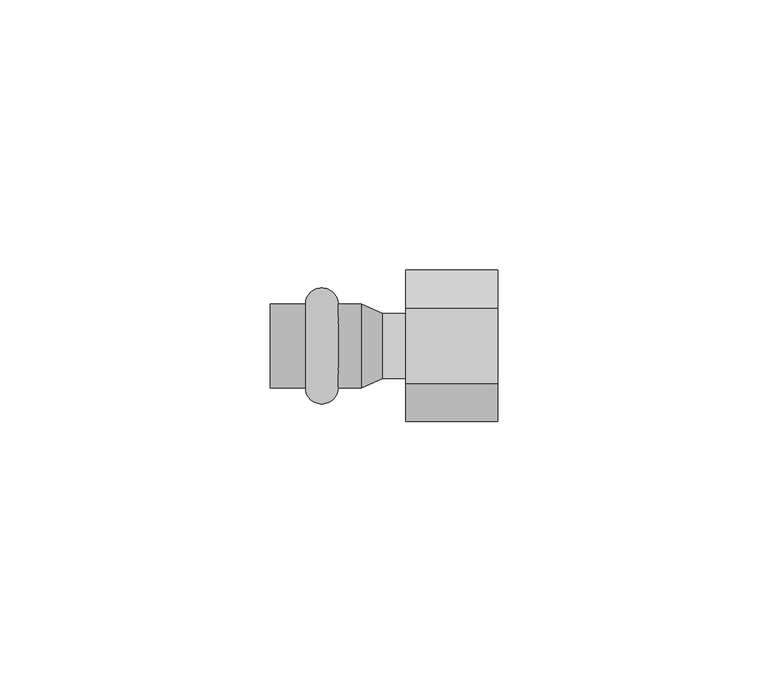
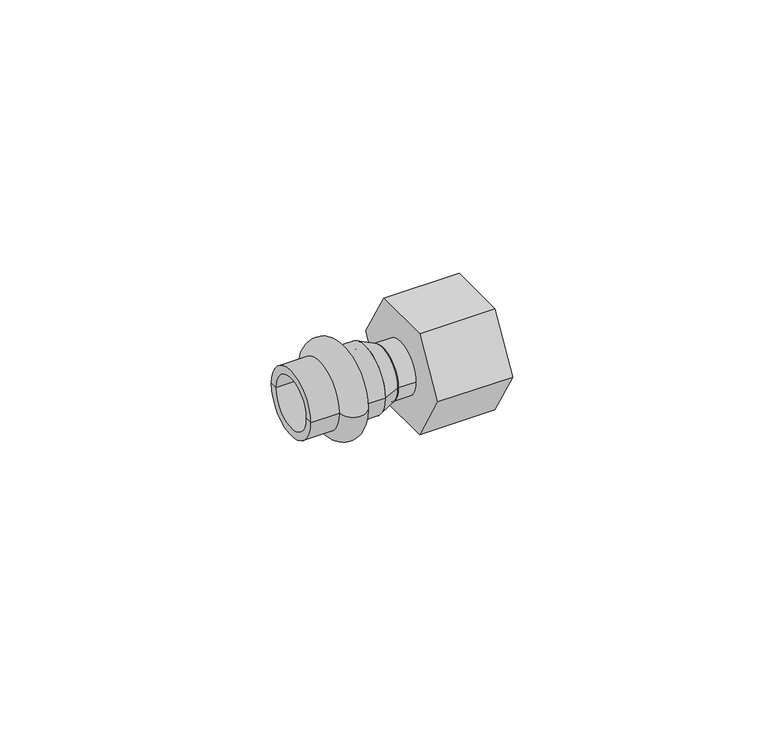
"""IFC4 building model written with IfcOpenShell, lengths in millimetres: pipe fitting geometry, VALTEC_VTi.908.I_Соединитель с накидной гайкой_Нержавеющая сталь : VTi.908.I."""

import ifcopenshell
import ifcopenshell.guid

model = None  # the IFC model being written
_history = None  # IfcOwnerHistory: only IFC2X3 demands one
_inside = {}  # id of a spatial element -> (the spatial element, [elements in it])
_under = {}  # id of a project, library or spatial element -> (it, [spatial elements below it])
_declared = {}  # id of a project -> (the project, [libraries it declares])
_typed = {}  # id of a type object -> (the type object, [elements of that type])
_made_of = {}  # id of a material, layer set ... -> (it, [elements and type objects made of it])


def new_model(schema):
    """Start an empty IFC model of exactly this schema.

    Asked for "IFC4X3", IfcOpenShell would pick the latest addendum, in which some entities
    have other attributes; the version numbers below select the first issue.
    IFC2X3 requires an IfcOwnerHistory on every rooted entity: one is made here for all.
    """
    global model, _history
    if schema == "IFC4X3":
        model = ifcopenshell.file(schema_version=(4, 3, 0, 0))
    else:
        model = ifcopenshell.file(schema=schema)
    _inside.clear()
    _under.clear()
    _declared.clear()
    _typed.clear()
    _made_of.clear()
    _history = None
    if model.schema == "IFC2X3":
        org = make("IfcOrganization", Name="unknown")
        user = make(
            "IfcPersonAndOrganization",
            ThePerson=make("IfcPerson", FamilyName="unknown"),
            TheOrganization=org,
        )
        app = make(
            "IfcApplication",
            ApplicationDeveloper=org,
            Version="unknown",
            ApplicationFullName="unknown",
            ApplicationIdentifier="unknown",
        )
        _history = make(
            "IfcOwnerHistory",
            OwningUser=user,
            OwningApplication=app,
            ChangeAction="ADDED",
            CreationDate=0,
        )
    return model


def make(cls, **values):
    """One entity of the class cls with the attributes given. An attribute that is None is left unset."""
    return model.create_entity(
        cls, **{name: value for name, value in values.items() if value is not None}
    )


def rooted(cls, **values):
    """An entity with a GlobalId (a new one), such as an element, a storey or a relation."""
    return make(cls, GlobalId=ifcopenshell.guid.new(), OwnerHistory=_history, **values)


def si_unit(unit_type, name, prefix=None):
    """IfcSIUnit, for example si_unit("LENGTHUNIT", "METRE", prefix="MILLI")."""
    return make("IfcSIUnit", UnitType=unit_type, Prefix=prefix, Name=name)


def assignment(units):
    """IfcUnitAssignment: the units of a project."""
    return None if units is None else make("IfcUnitAssignment", Units=units)


def point(xyz):
    """IfcCartesianPoint."""
    return None if xyz is None else make("IfcCartesianPoint", Coordinates=xyz)


def direction(xyz):
    """IfcDirection."""
    return None if xyz is None else make("IfcDirection", DirectionRatios=xyz)


def frame(location, z_axis=None, x_axis=None):
    """IfcAxis2Placement3D, a coordinate frame: its origin and axes. An axis left out is left unset."""
    return make(
        "IfcAxis2Placement3D",
        Location=point(location),
        Axis=direction(z_axis),
        RefDirection=direction(x_axis),
    )


def frame_2d(location, x_axis=None):
    """IfcAxis2Placement2D, a coordinate frame in the plane: its origin and x axis."""
    return make(
        "IfcAxis2Placement2D", Location=point(location), RefDirection=direction(x_axis)
    )


def origin():
    """The frame at (0, 0, 0) with its axes left unset."""
    return frame((0.0, 0.0, 0.0))


def origin_2d():
    """The frame at (0, 0) in the plane with its x axis left unset."""
    return frame_2d((0.0, 0.0))


def place(relative_to, where):
    """IfcLocalPlacement: puts the frame where relative to a parent placement (None: the world)."""
    return make(
        "IfcLocalPlacement", PlacementRelTo=relative_to, RelativePlacement=where
    )


def context(
    kind, dimensions, precision=None, world=None, true_north=None, identifier=None
):
    """IfcGeometricRepresentationContext, for example the 3D "Model" context."""
    return make(
        "IfcGeometricRepresentationContext",
        ContextIdentifier=identifier,
        ContextType=kind,
        CoordinateSpaceDimension=dimensions,
        Precision=precision,
        WorldCoordinateSystem=world,
        TrueNorth=true_north,
    )


def project(units=None, contexts=None):
    """IfcProject with its units and contexts."""
    return rooted(
        "IfcProject",
        Name="project",
        RepresentationContexts=contexts,
        UnitsInContext=assignment(units),
    )


def spatial(cls, under=None, at=None, **own):
    """A site, building, storey or space (cls), placed at a placement, below another one or the project."""
    s = rooted(cls, ObjectPlacement=at, **own)
    if under is not None:
        _under.setdefault(under.id(), (under, []))[1].append(s)
    return s


def polyline(points):
    """IfcPolyline through the points."""
    return make("IfcPolyline", Points=[point(p) for p in points])


def circle_curve(where, radius):
    """IfcCircle in the frame where."""
    return make("IfcCircle", Position=where, Radius=radius)


def ellipse_curve(where, semi_axis1, semi_axis2):
    """IfcEllipse in the frame where."""
    return make(
        "IfcEllipse", Position=where, SemiAxis1=semi_axis1, SemiAxis2=semi_axis2
    )


def trimmed(basis, trim1, trim2, sense, master):
    """IfcTrimmedCurve: the piece of a basis curve between two trims."""
    return make(
        "IfcTrimmedCurve",
        BasisCurve=basis,
        Trim1=trim1,
        Trim2=trim2,
        SenseAgreement=sense,
        MasterRepresentation=master,
    )


def segment(curve, same_sense, transition):
    """IfcCompositeCurveSegment."""
    return make(
        "IfcCompositeCurveSegment",
        Transition=transition,
        SameSense=same_sense,
        ParentCurve=curve,
    )


def composite_curve(segments, self_intersect=None):
    """IfcCompositeCurve: segments joined end to end."""
    return make("IfcCompositeCurve", Segments=segments, SelfIntersect=self_intersect)


def outline(outer, holes=None, kind="AREA"):
    """IfcArbitraryClosedProfileDef: a profile drawn as a closed curve; with holes, ...WithVoids."""
    if holes is None:
        return make("IfcArbitraryClosedProfileDef", ProfileType=kind, OuterCurve=outer)
    return make(
        "IfcArbitraryProfileDefWithVoids",
        ProfileType=kind,
        OuterCurve=outer,
        InnerCurves=holes,
    )


def extrude(swept, where, along, depth):
    """IfcExtrudedAreaSolid: the profile swept, set in the frame where, extruded along a direction by depth."""
    return make(
        "IfcExtrudedAreaSolid",
        SweptArea=swept,
        Position=where,
        ExtrudedDirection=direction(along),
        Depth=depth,
    )


def shape(context_of_items, identifier, shape_type, items):
    """IfcShapeRepresentation: the items that make up one representation, for example the "Body"."""
    return make(
        "IfcShapeRepresentation",
        ContextOfItems=context_of_items,
        RepresentationIdentifier=identifier,
        RepresentationType=shape_type,
        Items=items,
    )


def source(mapping_origin, context_of_items, identifier, shape_type, items):
    """IfcRepresentationMap: a shape defined once, which mapped items show again and again."""
    return make(
        "IfcRepresentationMap",
        MappingOrigin=mapping_origin,
        MappedRepresentation=shape(context_of_items, identifier, shape_type, items),
    )


def transform(
    local_origin,
    x_axis=None,
    y_axis=None,
    z_axis=None,
    scale=None,
    scale2=None,
    scale3=None,
    uniform=True,
):
    """IfcCartesianTransformationOperator3D, or its non-uniform kind. x_axis, y_axis, z_axis: its Axis1, 2, 3."""
    if uniform:
        return make(
            "IfcCartesianTransformationOperator3D",
            Axis1=direction(x_axis),
            Axis2=direction(y_axis),
            LocalOrigin=point(local_origin),
            Scale=scale,
            Axis3=direction(z_axis),
        )
    return make(
        "IfcCartesianTransformationOperator3DnonUniform",
        Axis1=direction(x_axis),
        Axis2=direction(y_axis),
        LocalOrigin=point(local_origin),
        Scale=scale,
        Axis3=direction(z_axis),
        Scale2=scale2,
        Scale3=scale3,
    )


def mapped(mapping_source, mapping_target):
    """IfcMappedItem: shows the shape of a source again, moved by a transform."""
    return make(
        "IfcMappedItem", MappingSource=mapping_source, MappingTarget=mapping_target
    )


def made_of(thing, what):
    """Note that an element or type object is made of a material, layer set ...; save() writes the relation."""
    if what is not None:
        _made_of.setdefault(what.id(), (what, []))[1].append(thing)
    return thing


def element(
    cls,
    number,
    at=None,
    inside=None,
    cuts=None,
    type_object=None,
    material=None,
    context=None,
    identifier="Body",
    shape_type=None,
    held_by="IfcProductDefinitionShape",
    body=None,
    shapes=None,
    **own,
):
    """One element of the class cls, such as IfcWall. Its Tag is "e" and its number.

    at: its placement. inside: the storey or other place that contains it. cuts: it is an
    opening in that element (IfcRelVoidsElement). A single representation is given by context,
    identifier, shape_type and body (its items); several are given by shapes. held_by: the class
    of the entity that holds the representations. save() writes the other relations.
    """
    e = rooted(cls, Tag="e%d" % number, ObjectPlacement=at, **own)
    if body is not None:
        shapes = [shape(context, identifier, shape_type, body)]
    if shapes is not None:
        e.Representation = make(held_by, Representations=shapes)
    if inside is not None:
        _inside.setdefault(inside.id(), (inside, []))[1].append(e)
    if cuts is not None:
        rooted(
            "IfcRelVoidsElement", RelatingBuildingElement=cuts, RelatedOpeningElement=e
        )
    if type_object is not None:
        _typed.setdefault(type_object.id(), (type_object, []))[1].append(e)
    return made_of(e, material)


def aggregate(whole, parts):
    """IfcRelAggregates: a whole, such as a stair, and the parts it consists of."""
    return rooted("IfcRelAggregates", RelatingObject=whole, RelatedObjects=parts)


def save(model, path):
    """Write the relations noted so far, then the file.

    IfcRelAggregates (storeys below a building ...), IfcRelContainedInSpatialStructure (elements
    in a storey), IfcRelDefinesByType, IfcRelAssociatesMaterial and IfcRelDeclares: one each for
    every whole, place, type object, material and project.
    """
    for whole, parts in _under.values():
        aggregate(whole, parts)
    for where, things in _inside.values():
        rooted(
            "IfcRelContainedInSpatialStructure",
            RelatedElements=things,
            RelatingStructure=where,
        )
    for kind, things in _typed.values():
        rooted("IfcRelDefinesByType", RelatedObjects=things, RelatingType=kind)
    for what, things in _made_of.values():
        rooted("IfcRelAssociatesMaterial", RelatedObjects=things, RelatingMaterial=what)
    for by, libraries in _declared.values():
        rooted("IfcRelDeclares", RelatingContext=by, RelatedDefinitions=libraries)
    model.write(path)


def plane_surface(at):
    """IfcPlane: the flat surface through the origin of the frame at, square to its z axis."""
    return make("IfcPlane", Position=at)


def cylinder_surface(at, radius):
    """IfcCylindricalSurface: all points at the distance radius from the z axis of the frame at."""
    return make("IfcCylindricalSurface", Position=at, Radius=radius)


def revolved_surface(curve, axis_point, axis_direction):
    """IfcSurfaceOfRevolution: the curve turned about the line through axis_point along axis_direction."""
    return make(
        "IfcSurfaceOfRevolution",
        SweptCurve=make("IfcArbitraryOpenProfileDef", ProfileType="CURVE", Curve=curve),
        AxisPosition=make("IfcAxis1Placement", Location=point(axis_point), Axis=direction(axis_direction)),
    )


def advanced_brep(points, edges, surfaces, faces):
    """IfcAdvancedBrep: a solid bounded by faces that lie on surfaces and meet in shared edges.

    An edge is (start, end): straight between two places in points (the first is 0);
    or (start, end, curve); or (start, end, curve, False) where it runs against its curve.
    A face is (place in surfaces, loops), or (place, loops, False) where it looks against
    its surface's normal. A loop lists edges by number (the first is 1), with a minus sign
    where the edge is run from its end to its start. The first loop is the outer one.
    """
    corners = [point(p) for p in points]
    vertices = [make("IfcVertexPoint", VertexGeometry=c) for c in corners]
    made = []
    for start, end, *more in edges:
        made.append(
            make(
                "IfcEdgeCurve",
                EdgeStart=vertices[start],
                EdgeEnd=vertices[end],
                EdgeGeometry=more[0] if more else make("IfcPolyline", Points=[corners[start], corners[end]]),
                SameSense=more[1] if len(more) > 1 else True,
            )
        )
    hull = []
    for where, loops, *sense in faces:
        bounds = []
        for j, loop in enumerate(loops):
            ring = [make("IfcOrientedEdge", EdgeElement=made[abs(k) - 1], Orientation=k > 0) for k in loop]
            bounds.append(
                make(
                    "IfcFaceOuterBound" if j == 0 else "IfcFaceBound",
                    Bound=make("IfcEdgeLoop", EdgeList=ring),
                    Orientation=True,
                )
            )
        hull.append(make("IfcAdvancedFace", Bounds=bounds, FaceSurface=surfaces[where], SameSense=sense[0] if sense else True))
    return make("IfcAdvancedBrep", Outer=make("IfcClosedShell", CfsFaces=hull))


def pipe_fitting_cb15b52e(model_context):
    return source(origin(), model_context, "Body", "SolidModel", [
        advanced_brep(
        [(-27.0, -7.75, 0.0), (-27.0, 7.75, 0.0), (-21.0, 7.75, 0.0), (-21.0, -7.75, 0.0), (-33.5, -7.75, 0.0), (-33.5, 7.75, 0.0), (-33.5, -6.0, 0.0), (-33.5, 6.0, 0.0), (-16.7, -6.0, 0.0), (-16.7, 6.0, 0.0), (-16.7, -7.75, 0.0), (-16.7, 7.75, 0.0)],
        [
            (0, 1, circle_curve(frame((-27.0, 0.0, 0.0), z_axis=(1.0, 0.0, 0.0), x_axis=(0.0, 1.0, 0.0)), 7.75)),
            (1, 2, circle_curve(frame((-24.0, 7.75, 0.0), z_axis=(0.0, 0.0, -1.0), x_axis=(1.0, 0.0, 0.0)), 3.0)),
            (2, 3, circle_curve(frame((-21.0, 0.0, 0.0), z_axis=(-1.0, 0.0, 0.0), x_axis=(0.0, 1.0, 0.0)), 7.75)),
            (3, 0, circle_curve(frame((-24.0, -7.75, 0.0), z_axis=(0.0, 0.0, -1.0), x_axis=(1.0, 0.0, 0.0)), 3.0)),
            (1, 0, circle_curve(frame((-27.0, 0.0, 0.0), z_axis=(1.0, 0.0, 0.0), x_axis=(0.0, 1.0, 0.0)), 7.75)),
            (3, 2, circle_curve(frame((-21.0, 0.0, 0.0), z_axis=(-1.0, 0.0, 0.0), x_axis=(0.0, 1.0, 0.0)), 7.75)),
            (4, 5, circle_curve(frame((-33.5, 0.0, 0.0), z_axis=(1.0, 0.0, 0.0), x_axis=(0.0, 1.0, 0.0)), 7.75)),
            (5, 1),
            (0, 4),
            (5, 4, circle_curve(frame((-33.5, 0.0, 0.0), z_axis=(1.0, 0.0, 0.0), x_axis=(0.0, 1.0, 0.0)), 7.75)),
            (6, 7, circle_curve(frame((-33.5, 0.0, 0.0), z_axis=(1.0, 0.0, 0.0), x_axis=(0.0, 1.0, 0.0)), 6.0)),
            (7, 5),
            (4, 6),
            (7, 6, circle_curve(frame((-33.5, 0.0, 0.0), z_axis=(1.0, 0.0, 0.0), x_axis=(0.0, 1.0, 0.0)), 6.0)),
            (8, 9, circle_curve(frame((-16.7, 0.0, 0.0), z_axis=(1.0, 0.0, 0.0), x_axis=(0.0, 1.0, 0.0)), 6.0)),
            (9, 7),
            (6, 8),
            (9, 8, circle_curve(frame((-16.7, 0.0, 0.0), z_axis=(1.0, 0.0, 0.0), x_axis=(0.0, 1.0, 0.0)), 6.0)),
            (10, 11, circle_curve(frame((-16.7, 0.0, 0.0), z_axis=(1.0, 0.0, 0.0), x_axis=(0.0, 1.0, 0.0)), 7.75)),
            (11, 9),
            (8, 10),
            (11, 10, circle_curve(frame((-16.7, 0.0, 0.0), z_axis=(1.0, 0.0, 0.0), x_axis=(0.0, 1.0, 0.0)), 7.75)),
            (2, 11),
            (10, 3),
        ],
        [
            revolved_surface(trimmed(ellipse_curve(frame((-24.0, 7.75, 0.0), z_axis=(0.0, 0.0, 1.0), x_axis=(1.0, 0.0, 0.0)), 3.0, 3.0), [point((-21.0, 7.75, 0.0))], [point((-27.0, 7.75, 0.0))], True, "CARTESIAN"), (-37.0364426, 0.0, 0.0), (-1.0, 0.0, 0.0)),
            cylinder_surface(frame((-37.0364426, 0.0, 0.0), z_axis=(-1.0, 0.0, 0.0), x_axis=(0.0, 1.0, 0.0)), 7.75),
            plane_surface(frame((-33.5, 0.0, 0.0), z_axis=(-1.0, 0.0, 0.0), x_axis=(0.0, 1.0, 0.0))),
            revolved_surface(polyline([(-33.5, 6.0, 0.0), (-16.7, 6.0, 0.0)]), (-37.0364426, 0.0, 0.0), (-1.0, 0.0, 0.0)),
            plane_surface(frame((-16.7, 0.0, 0.0), z_axis=(1.0, 0.0, 0.0), x_axis=(0.0, 1.0, 0.0))),
        ],
        [
            (0, [[1, 2, 3, 4]]),
            (0, [[5, -4, 6, -2]]),
            (1, [[7, 8, -1, 9]]),
            (1, [[10, -9, -5, -8]]),
            (2, [[11, 12, -7, 13]]),
            (2, [[14, -13, -10, -12]]),
            (3, [[15, 16, -11, 17]]),
            (3, [[18, -17, -14, -16]]),
            (4, [[19, 20, -15, 21]]),
            (4, [[22, -21, -18, -20]]),
            (1, [[-3, 23, -19, 24]]),
            (1, [[-6, -24, -22, -23]]),
        ],
    ),
        extrude(outline(polyline([(-13.989197, 0.0), (-6.9945985, 12.115), (6.9945985, 12.115), (13.989197, 0.0), (6.9945985, -12.115), (-6.9945985, -12.115), (-13.989197, 0.0)])), frame((-8.5, 0.0, 0.0), z_axis=(1.0, 0.0, 0.0), x_axis=(0.0, 1.0, 0.0)), (0.0, 0.0, 1.0), 17.0),
        extrude(outline(composite_curve([segment(trimmed(circle_curve(origin_2d(), 6.0), [point((-6.0, 0.0))], [point((6.0, 0.0))], False, "CARTESIAN"), True, "CONTINUOUS"), segment(trimmed(circle_curve(origin_2d(), 6.0), [point((6.0, 0.0))], [point((-6.0, 0.0))], False, "CARTESIAN"), True, "CONTINUOUS")], self_intersect=False)), frame((-12.7, 0.0, 0.0), z_axis=(1.0, 0.0, 0.0), x_axis=(0.0, 1.0, 0.0)), (0.0, 0.0, 1.0), 4.2),
        advanced_brep(
        [(-12.7, -6.0, 0.0), (-12.7, 6.0, 0.0), (-16.7, -7.75, 0.0), (-16.7, 7.75, 0.0)],
        [
            (0, 1, circle_curve(frame((-12.7, 0.0, 0.0), z_axis=(1.0, 0.0, 0.0), x_axis=(0.0, -1.0, 0.0)), 6.0)),
            (1, 0, circle_curve(frame((-12.7, 0.0, 0.0), z_axis=(1.0, 0.0, 0.0), x_axis=(0.0, 1.0, 0.0)), 6.0)),
            (2, 3, circle_curve(frame((-16.7, 0.0, 0.0), z_axis=(-1.0, 0.0, 0.0), x_axis=(0.0, 1.0, 0.0)), 7.75)),
            (3, 2, circle_curve(frame((-16.7, 0.0, 0.0), z_axis=(-1.0, 0.0, 0.0), x_axis=(0.0, -1.0, 0.0)), 7.75)),
            (3, 1),
            (0, 2),
        ],
        [
            plane_surface(frame((-12.7, 0.0, 0.0), z_axis=(1.0, 0.0, 0.0), x_axis=(0.0, 0.0, -1.0))),
            plane_surface(frame((-16.7, 0.0, 0.0), z_axis=(-1.0, 0.0, 0.0), x_axis=(0.0, 0.0, -1.0))),
            revolved_surface(polyline([(-12.7, -5.99999999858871, 0.0), (-16.7, -7.75, 0.0)]), (1.0142857, 0.0, 0.0), (-1.0, 0.0, 0.0)),
            revolved_surface(polyline([(-12.7, 5.99999999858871, 0.0), (-16.7, 7.75, 0.0)]), (1.0142857, 0.0, 0.0), (-1.0, 0.0, 0.0)),
        ],
        [
            (0, [[1, 2]]),
            (1, [[3, 4]]),
            (2, [[-4, 5, -1, 6]]),
            (3, [[-3, -6, -2, -5]]),
        ],
    ),
    ])


if __name__ == "__main__":
    model = new_model("IFC4")
    model_context = context("Model", 3, world=origin())
    ifc_project = project(units=[si_unit("LENGTHUNIT", "METRE", prefix="MILLI")], contexts=[model_context])
    site = spatial("IfcSite", under=ifc_project)
    building = spatial("IfcBuilding", under=site)
    placement = place(None, origin())
    pipe_fitting_shape = pipe_fitting_cb15b52e(model_context)
    element("IfcPipeFitting", 1, ObjectType="VALTEC_VTi.908.I_Соединитель с накидной гайкой_Нержавеющая сталь : VTi.908.I", at=placement, inside=building, context=model_context, shape_type="MappedRepresentation", body=[
        mapped(pipe_fitting_shape, transform((0.0, 0.0, 0.0), x_axis=(1.0, 0.0, 0.0), y_axis=(0.0, 1.0, 0.0), z_axis=(0.0, 0.0, 1.0))),
    ])
    save(model, "model.ifc")
